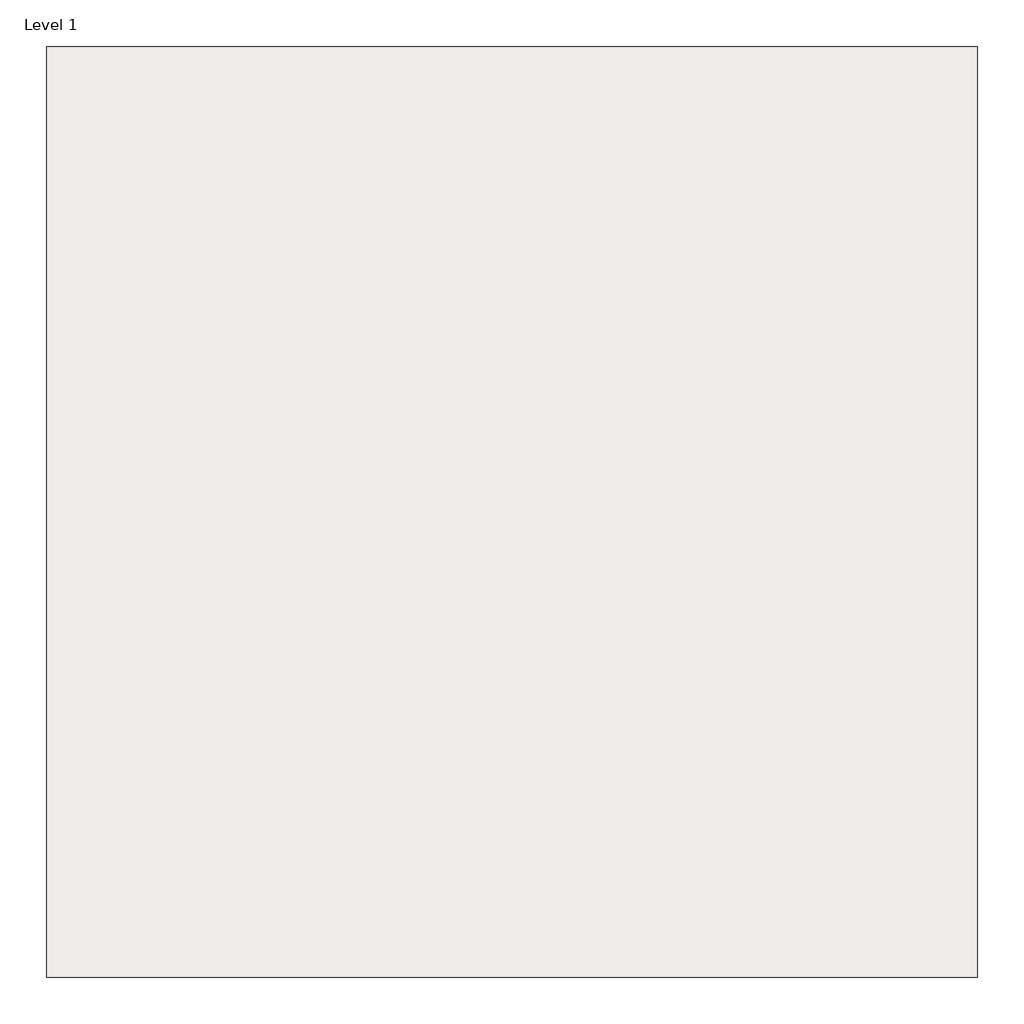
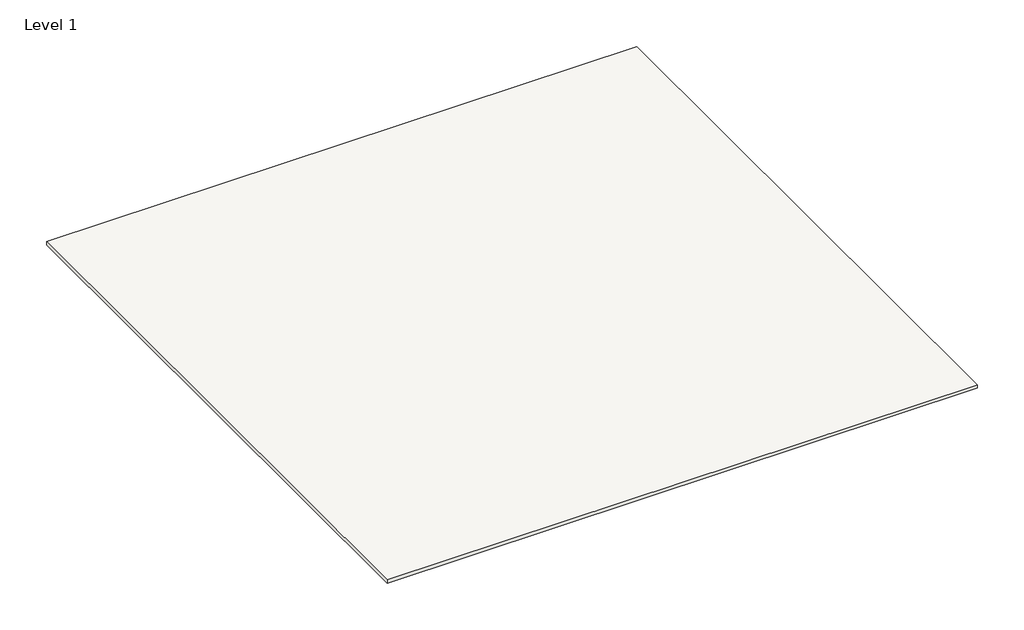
# One storey: 7 coverings.
"""IFC4 building model written with IfcOpenShell, lengths in millimetres."""

import ifcopenshell
import ifcopenshell.guid

model = None  # the IFC model being written
_history = None  # IfcOwnerHistory: only IFC2X3 demands one
_inside = {}  # id of a spatial element -> (the spatial element, [elements in it])
_under = {}  # id of a project, library or spatial element -> (it, [spatial elements below it])
_declared = {}  # id of a project -> (the project, [libraries it declares])
_typed = {}  # id of a type object -> (the type object, [elements of that type])
_made_of = {}  # id of a material, layer set ... -> (it, [elements and type objects made of it])


def new_model(schema):
    """Start an empty IFC model of exactly this schema.

    Asked for "IFC4X3", IfcOpenShell would pick the latest addendum, in which some entities
    have other attributes; the version numbers below select the first issue.
    IFC2X3 requires an IfcOwnerHistory on every rooted entity: one is made here for all.
    """
    global model, _history
    if schema == "IFC4X3":
        model = ifcopenshell.file(schema_version=(4, 3, 0, 0))
    else:
        model = ifcopenshell.file(schema=schema)
    _inside.clear()
    _under.clear()
    _declared.clear()
    _typed.clear()
    _made_of.clear()
    _history = None
    if model.schema == "IFC2X3":
        org = make("IfcOrganization", Name="unknown")
        user = make(
            "IfcPersonAndOrganization",
            ThePerson=make("IfcPerson", FamilyName="unknown"),
            TheOrganization=org,
        )
        app = make(
            "IfcApplication",
            ApplicationDeveloper=org,
            Version="unknown",
            ApplicationFullName="unknown",
            ApplicationIdentifier="unknown",
        )
        _history = make(
            "IfcOwnerHistory",
            OwningUser=user,
            OwningApplication=app,
            ChangeAction="ADDED",
            CreationDate=0,
        )
    return model


def make(cls, **values):
    """One entity of the class cls with the attributes given. An attribute that is None is left unset."""
    return model.create_entity(
        cls, **{name: value for name, value in values.items() if value is not None}
    )


def rooted(cls, **values):
    """An entity with a GlobalId (a new one), such as an element, a storey or a relation."""
    return make(cls, GlobalId=ifcopenshell.guid.new(), OwnerHistory=_history, **values)


def si_unit(unit_type, name, prefix=None):
    """IfcSIUnit, for example si_unit("LENGTHUNIT", "METRE", prefix="MILLI")."""
    return make("IfcSIUnit", UnitType=unit_type, Prefix=prefix, Name=name)


def assignment(units):
    """IfcUnitAssignment: the units of a project."""
    return None if units is None else make("IfcUnitAssignment", Units=units)


def point(xyz):
    """IfcCartesianPoint."""
    return None if xyz is None else make("IfcCartesianPoint", Coordinates=xyz)


def direction(xyz):
    """IfcDirection."""
    return None if xyz is None else make("IfcDirection", DirectionRatios=xyz)


def frame(location, z_axis=None, x_axis=None):
    """IfcAxis2Placement3D, a coordinate frame: its origin and axes. An axis left out is left unset."""
    return make(
        "IfcAxis2Placement3D",
        Location=point(location),
        Axis=direction(z_axis),
        RefDirection=direction(x_axis),
    )


def origin():
    """The frame at (0, 0, 0) with its axes left unset."""
    return frame((0.0, 0.0, 0.0))


def place(relative_to, where):
    """IfcLocalPlacement: puts the frame where relative to a parent placement (None: the world)."""
    return make(
        "IfcLocalPlacement", PlacementRelTo=relative_to, RelativePlacement=where
    )


def context(
    kind, dimensions, precision=None, world=None, true_north=None, identifier=None
):
    """IfcGeometricRepresentationContext, for example the 3D "Model" context."""
    return make(
        "IfcGeometricRepresentationContext",
        ContextIdentifier=identifier,
        ContextType=kind,
        CoordinateSpaceDimension=dimensions,
        Precision=precision,
        WorldCoordinateSystem=world,
        TrueNorth=true_north,
    )


def project(units=None, contexts=None):
    """IfcProject with its units and contexts."""
    return rooted(
        "IfcProject",
        Name="project",
        RepresentationContexts=contexts,
        UnitsInContext=assignment(units),
    )


def spatial(cls, under=None, at=None, **own):
    """A site, building, storey or space (cls), placed at a placement, below another one or the project."""
    s = rooted(cls, ObjectPlacement=at, **own)
    if under is not None:
        _under.setdefault(under.id(), (under, []))[1].append(s)
    return s


def polyline(points):
    """IfcPolyline through the points."""
    return make("IfcPolyline", Points=[point(p) for p in points])


def outline(outer, holes=None, kind="AREA"):
    """IfcArbitraryClosedProfileDef: a profile drawn as a closed curve; with holes, ...WithVoids."""
    if holes is None:
        return make("IfcArbitraryClosedProfileDef", ProfileType=kind, OuterCurve=outer)
    return make(
        "IfcArbitraryProfileDefWithVoids",
        ProfileType=kind,
        OuterCurve=outer,
        InnerCurves=holes,
    )


def extrude(swept, where, along, depth):
    """IfcExtrudedAreaSolid: the profile swept, set in the frame where, extruded along a direction by depth."""
    return make(
        "IfcExtrudedAreaSolid",
        SweptArea=swept,
        Position=where,
        ExtrudedDirection=direction(along),
        Depth=depth,
    )


def shape(context_of_items, identifier, shape_type, items):
    """IfcShapeRepresentation: the items that make up one representation, for example the "Body"."""
    return make(
        "IfcShapeRepresentation",
        ContextOfItems=context_of_items,
        RepresentationIdentifier=identifier,
        RepresentationType=shape_type,
        Items=items,
    )


def made_of(thing, what):
    """Note that an element or type object is made of a material, layer set ...; save() writes the relation."""
    if what is not None:
        _made_of.setdefault(what.id(), (what, []))[1].append(thing)
    return thing


def element(
    cls,
    number,
    at=None,
    inside=None,
    cuts=None,
    type_object=None,
    material=None,
    context=None,
    identifier="Body",
    shape_type=None,
    held_by="IfcProductDefinitionShape",
    body=None,
    shapes=None,
    **own,
):
    """One element of the class cls, such as IfcWall. Its Tag is "e" and its number.

    at: its placement. inside: the storey or other place that contains it. cuts: it is an
    opening in that element (IfcRelVoidsElement). A single representation is given by context,
    identifier, shape_type and body (its items); several are given by shapes. held_by: the class
    of the entity that holds the representations. save() writes the other relations.
    """
    e = rooted(cls, Tag="e%d" % number, ObjectPlacement=at, **own)
    if body is not None:
        shapes = [shape(context, identifier, shape_type, body)]
    if shapes is not None:
        e.Representation = make(held_by, Representations=shapes)
    if inside is not None:
        _inside.setdefault(inside.id(), (inside, []))[1].append(e)
    if cuts is not None:
        rooted(
            "IfcRelVoidsElement", RelatingBuildingElement=cuts, RelatedOpeningElement=e
        )
    if type_object is not None:
        _typed.setdefault(type_object.id(), (type_object, []))[1].append(e)
    return made_of(e, material)


def aggregate(whole, parts):
    """IfcRelAggregates: a whole, such as a stair, and the parts it consists of."""
    return rooted("IfcRelAggregates", RelatingObject=whole, RelatedObjects=parts)


def save(model, path):
    """Write the relations noted so far, then the file.

    IfcRelAggregates (storeys below a building ...), IfcRelContainedInSpatialStructure (elements
    in a storey), IfcRelDefinesByType, IfcRelAssociatesMaterial and IfcRelDeclares: one each for
    every whole, place, type object, material and project.
    """
    for whole, parts in _under.values():
        aggregate(whole, parts)
    for where, things in _inside.values():
        rooted(
            "IfcRelContainedInSpatialStructure",
            RelatedElements=things,
            RelatingStructure=where,
        )
    for kind, things in _typed.values():
        rooted("IfcRelDefinesByType", RelatedObjects=things, RelatingType=kind)
    for what, things in _made_of.values():
        rooted("IfcRelAssociatesMaterial", RelatedObjects=things, RelatingMaterial=what)
    for by, libraries in _declared.values():
        rooted("IfcRelDeclares", RelatingContext=by, RelatedDefinitions=libraries)
    model.write(path)


model = new_model("IFC4")

# Units and contexts
model_context = context("Model", 3, world=origin())
ifc_project = project(units=[si_unit("LENGTHUNIT", "METRE", prefix="MILLI")], contexts=[model_context])

# Site, building, storey
site = spatial("IfcSite", under=ifc_project)
building = spatial("IfcBuilding", under=site)
storey = spatial("IfcBuildingStorey", under=building, Name="Level 1", Elevation=0.0)

# Coverings
placement = place(None, origin())
element("IfcCovering", 1, ObjectType="Rockfon CleanSpace Pure A15 600 x 600 x 20 mm", at=placement, inside=storey, context=model_context, shape_type="SweptSolid", body=[
    extrude(outline(polyline([(-10024.8900449, 9015.695256), (-10024.8900449, 5415.695256), (-13624.8900449, 5415.695256), (-13624.8900449, 9015.695256), (-10024.8900449, 9015.695256)])), frame((0.0, 0.0, 1.0), z_axis=(0.0, 0.0, 1.0), x_axis=(1.0, 0.0, 0.0)), (0.0, 0.0, 1.0), 20.0),
])
element("IfcCovering", 2, ObjectType="Rockfon CleanSpace Pure E24 600 x 600 x 20 mm", at=placement, inside=storey, context=model_context, shape_type="SweptSolid", body=[
    extrude(outline(polyline([(-10815.7686987, 7987.1628732), (-10815.7686987, 7627.1628732), (-11415.7686987, 7627.1628732), (-11415.7686987, 7987.1628732), (-10815.7686987, 7987.1628732)])), frame((0.0, 0.0, -419.1266778), z_axis=(0.0, 0.0, 1.0), x_axis=(1.0, 0.0, 0.0)), (0.0, 0.0, 1.0), 20.0),
])
element("IfcCovering", 3, ObjectType="Rockfon CleanSpace Pure A24 600 x 600 x 20 mm", at=placement, inside=storey, context=model_context, shape_type="SweptSolid", body=[
    extrude(outline(polyline([(-10815.7686987, 7987.1628732), (-10815.7686987, 7627.1628732), (-11415.7686987, 7627.1628732), (-11415.7686987, 7987.1628732), (-10815.7686987, 7987.1628732)])), frame((0.0, 0.0, -263.5457352), z_axis=(0.0, 0.0, 1.0), x_axis=(1.0, 0.0, 0.0)), (0.0, 0.0, 1.0), 20.0),
])
element("IfcCovering", 4, ObjectType="Rockfon CleanSpace Pure A24 600 x 600 x 40 mm", at=placement, inside=storey, context=model_context, shape_type="SweptSolid", body=[
    extrude(outline(polyline([(-10815.7686987, 7987.1628732), (-10815.7686987, 7627.1628732), (-11415.7686987, 7627.1628732), (-11415.7686987, 7987.1628732), (-10815.7686987, 7987.1628732)])), frame((0.0, 0.0, -338.5457352), z_axis=(0.0, 0.0, 1.0), x_axis=(1.0, 0.0, 0.0)), (0.0, 0.0, 1.0), 40.0),
])
element("IfcCovering", 5, ObjectType="Rockfon CleanSpace Pure X 600 x 600 x 22 mm", at=placement, inside=storey, context=model_context, shape_type="SweptSolid", body=[
    extrude(outline(polyline([(-10815.7686987, 7987.1628732), (-10815.7686987, 7627.1628732), (-11415.7686987, 7627.1628732), (-11415.7686987, 7987.1628732), (-10815.7686987, 7987.1628732)])), frame((0.0, 0.0, -489.1266778), z_axis=(0.0, 0.0, 1.0), x_axis=(1.0, 0.0, 0.0)), (0.0, 0.0, 1.0), 22.0),
])
element("IfcCovering", 6, ObjectType="Rockfon CleanSpace Pure A15 600 x 600 x 20 mm", at=placement, inside=storey, context=model_context, shape_type="SweptSolid", body=[
    extrude(outline(polyline([(-10815.7686987, 7987.1628732), (-10815.7686987, 7627.1628732), (-11415.7686987, 7627.1628732), (-11415.7686987, 7987.1628732), (-10815.7686987, 7987.1628732)])), frame((0.0, 0.0, -184.1266778), z_axis=(0.0, 0.0, 1.0), x_axis=(1.0, 0.0, 0.0)), (0.0, 0.0, 1.0), 20.0),
])
element("IfcCovering", 7, ObjectType="Rockfon CleanSpace Pure X 600 x 600 x 22 mm", at=placement, inside=storey, context=model_context, shape_type="SweptSolid", body=[
    extrude(outline(polyline([(-10815.7686987, 7987.1628732), (-10815.7686987, 7627.1628732), (-11415.7686987, 7627.1628732), (-11415.7686987, 7987.1628732), (-10815.7686987, 7987.1628732)])), frame((0.0, 0.0, -549.1266778), z_axis=(0.0, 0.0, 1.0), x_axis=(1.0, 0.0, 0.0)), (0.0, 0.0, 1.0), 22.0),
])

save(model, "model.ifc")
